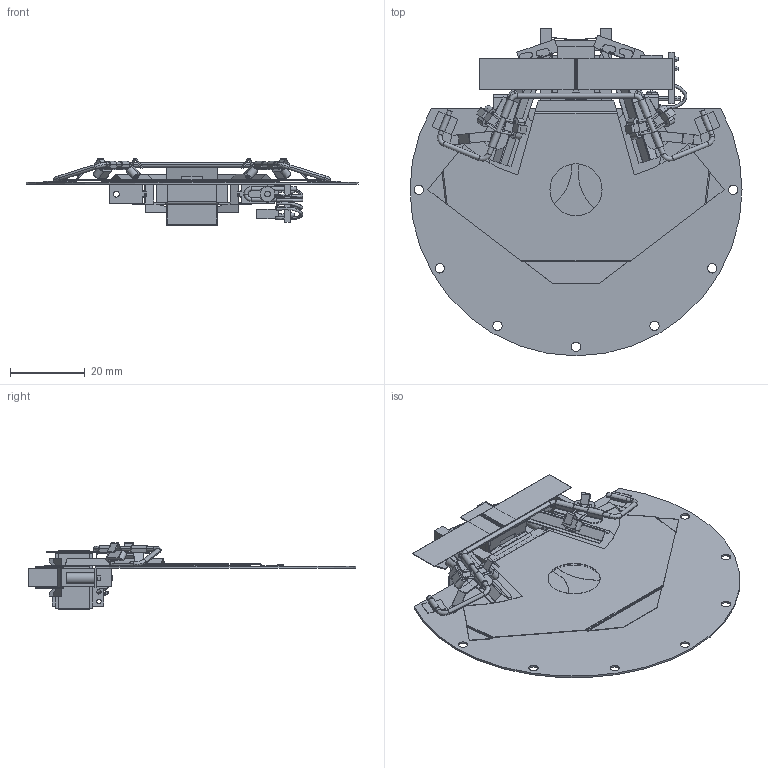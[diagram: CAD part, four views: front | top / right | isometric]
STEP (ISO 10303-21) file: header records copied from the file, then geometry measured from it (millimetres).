
FILE_DESCRIPTION (( 'STEP AP214' ), '1' );
FILE_NAME ('VS14 STD dumb.STEP', '2013-07-17T18:07:12', ( 'helen' ), ( 'Microsoft' ), 'SwSTEP 2.0', 'SolidWorks 2010', '' );
FILE_SCHEMA (( 'AUTOMOTIVE_DESIGN' ));
Length unit declared in the file: inch
Products named in the file (1): VS14 STD dumb
Bounding box: 88.9 x 87.73 x 17.91 mm (x, y, z)
Volume: 7001.3 mm3; surface area: 26280.7 mm2
Topology: 26 solids, 26 shells, 1114 faces, 2863 edges, 1779 vertices
Faces by surface type: plane 678, cylinder 316, torus 68, bspline 28, cone 22, sphere 2
Entity records: 50467 total; most frequent: CARTESIAN_POINT 8387, ORIENTED_EDGE 5718, DIRECTION 5670, EDGE_CURVE 2859, AXIS2_PLACEMENT_3D 1942, LINE 1786, VECTOR 1786, VERTEX_POINT 1779
